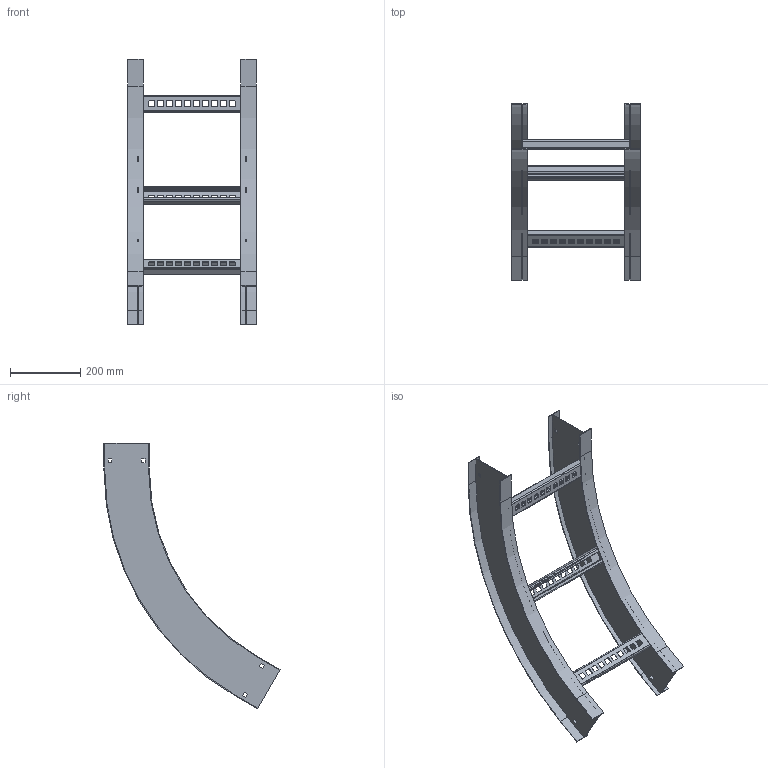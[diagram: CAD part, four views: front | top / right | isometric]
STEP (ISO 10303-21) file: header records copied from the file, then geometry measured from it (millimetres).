
FILE_DESCRIPTION((''),'2;1');
FILE_NAME('AHF512LVO6024_ASM','2010-02-01T',('erouzier'),(''),'PRO/ENGINEER BY PARAMETRIC TECHNOLOGY CORPORATION, 2008510','PRO/ENGINEER BY PARAMETRIC TECHNOLOGY CORPORATION, 2008510','');
FILE_SCHEMA(('CONFIG_CONTROL_DESIGN'));
Length unit declared in the file: inch
Products named in the file (3): CDS001658_5_60_24; CDS002159L12-P; AHF512LVO6024_ASM
Assembly tree (5 placements, depth 2):
  AHF512LVO6024_ASM
    CDS001658_5_60_24  x2
    CDS002159L12-P  x3
Bounding box: 366.01 x 499.82 x 753.97 mm (x, y, z)
Volume: 881312.6 mm3; surface area: 945671.7 mm2
Topology: 5 solids, 5 shells, 414 faces, 1212 edges, 808 vertices
Faces by surface type: plane 249, cylinder 165
Entity records: 5216 total; most frequent: CARTESIAN_POINT 900, ORIENTED_EDGE 888, DIRECTION 878, EDGE_CURVE 444, VECTOR 330, LINE 330, VERTEX_POINT 296, AXIS2_PLACEMENT_3D 274
